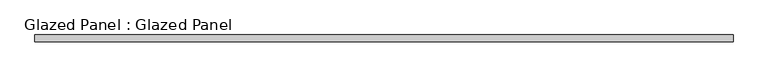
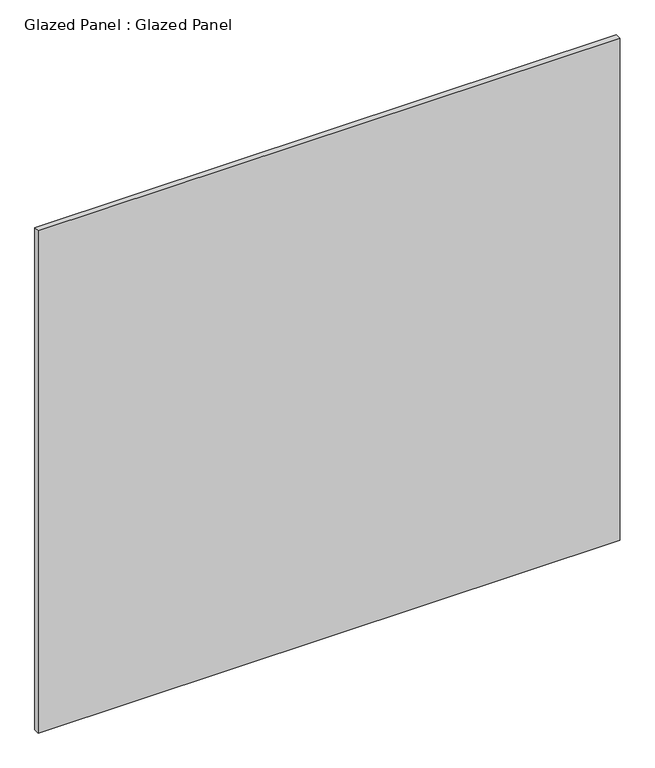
"""IFC4 building model written with IfcOpenShell, lengths in millimetres: plate geometry, Glazed Panel : Glazed Panel."""

from ifc_helpers import new_model, si_unit, origin, origin_with_axes, place, context, project, spatial, polyline, outline, extrude, source, transform, mapped, element, save


def glazed_panel_glazed_panel_80578d28(model_context):
    return source(origin(), model_context, "Body", "SweptSolid", [
        extrude(outline(polyline([(1318.9865007, 38.1), (-1318.9865007, 38.1), (-1318.9865007, 63.5), (1318.9865007, 63.5), (1318.9865007, 38.1)])), origin_with_axes(), (0.0, 0.0, 1.0), 2406.65),
    ])


if __name__ == "__main__":
    model = new_model("IFC4")
    model_context = context("Model", 3, world=origin())
    ifc_project = project(units=[si_unit("LENGTHUNIT", "METRE", prefix="MILLI")], contexts=[model_context])
    site = spatial("IfcSite", under=ifc_project)
    building = spatial("IfcBuilding", under=site)
    placement = place(None, origin())
    glazed_panel_glazed_panel_shape = glazed_panel_glazed_panel_80578d28(model_context)
    element("IfcPlate", 1, ObjectType="Glazed Panel : Glazed Panel", at=placement, inside=building, context=model_context, shape_type="MappedRepresentation", body=[
        mapped(glazed_panel_glazed_panel_shape, transform((0.0, 0.0, 0.0), x_axis=(1.0, 0.0, 0.0), y_axis=(0.0, 1.0, 0.0), z_axis=(0.0, 0.0, 1.0))),
    ])
    save(model, "model.ifc")
